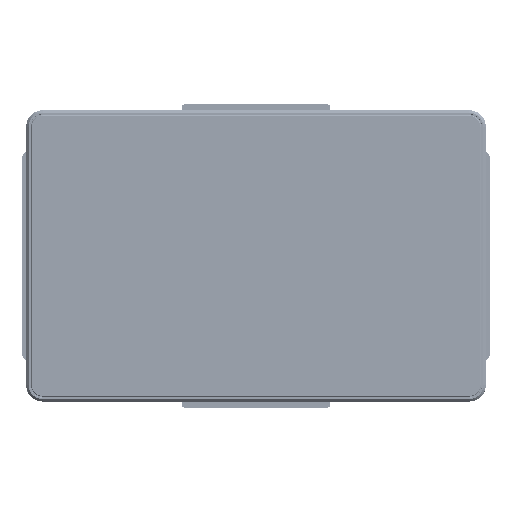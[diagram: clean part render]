
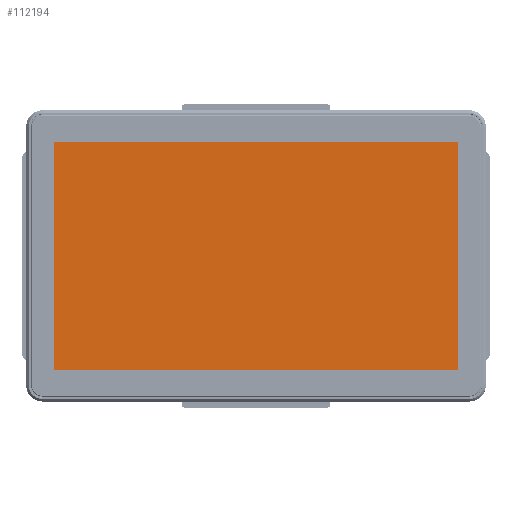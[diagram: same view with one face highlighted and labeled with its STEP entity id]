
A CAD part, top view. The second image highlights one B-rep face of the part: STEP entity #112194.
In plain terms, the highlighted planar face has unit normal (0, 0, 1).
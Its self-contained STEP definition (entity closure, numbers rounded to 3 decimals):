
#9701=PLANE('',#119822);
#18747=FACE_OUTER_BOUND('',#25417,.T.);
#25417=EDGE_LOOP('',(#95671,#95672,#95673,#95674));
#33252=LINE('',#249468,#41253);
#33255=LINE('',#249474,#41256);
#33258=LINE('',#249480,#41259);
#33261=LINE('',#249484,#41262);
#41253=VECTOR('',#139221,10.);
#41256=VECTOR('',#139226,10.);
#41259=VECTOR('',#139231,10.);
#41262=VECTOR('',#139236,10.);
#54024=VERTEX_POINT('',#249465);
#54025=VERTEX_POINT('',#249467);
#54027=VERTEX_POINT('',#249473);
#54029=VERTEX_POINT('',#249479);
#68458=EDGE_CURVE('',#54025,#54024,#33252,.T.);
#68461=EDGE_CURVE('',#54027,#54025,#33255,.T.);
#68464=EDGE_CURVE('',#54029,#54027,#33258,.T.);
#68467=EDGE_CURVE('',#54024,#54029,#33261,.T.);
#95671=ORIENTED_EDGE('',*,*,#68458,.T.);
#95672=ORIENTED_EDGE('',*,*,#68467,.T.);
#95673=ORIENTED_EDGE('',*,*,#68464,.T.);
#95674=ORIENTED_EDGE('',*,*,#68461,.T.);
#112194=ADVANCED_FACE('',(#18747),#9701,.T.);
#119822=AXIS2_PLACEMENT_3D('',#249567,#139325,#139326);
#139221=DIRECTION('',(-1.,0.,0.));
#139226=DIRECTION('',(0.,1.,0.));
#139231=DIRECTION('',(1.,0.,0.));
#139236=DIRECTION('',(0.,-1.,0.));
#139325=DIRECTION('center_axis',(0.,0.,
1.));
#139326=DIRECTION('ref_axis',(1.,0.,0.));
#249465=CARTESIAN_POINT('',(-204.85,115.3,-0.201));
#249467=CARTESIAN_POINT('',(205.35,115.3,-0.201));
#249468=CARTESIAN_POINT('',(0.125,115.3,-0.201));
#249473=CARTESIAN_POINT('',(205.35,-115.5,-0.201));
#249474=CARTESIAN_POINT('',(205.35,57.65,-0.201));
#249479=CARTESIAN_POINT('',(-204.85,-115.5,-0.201));
#249480=CARTESIAN_POINT('',(102.675,-115.5,-0.201));
#249484=CARTESIAN_POINT('',(-204.85,-0.05,-0.201));
#249567=CARTESIAN_POINT('Origin',(0.,0.,
-0.201));
